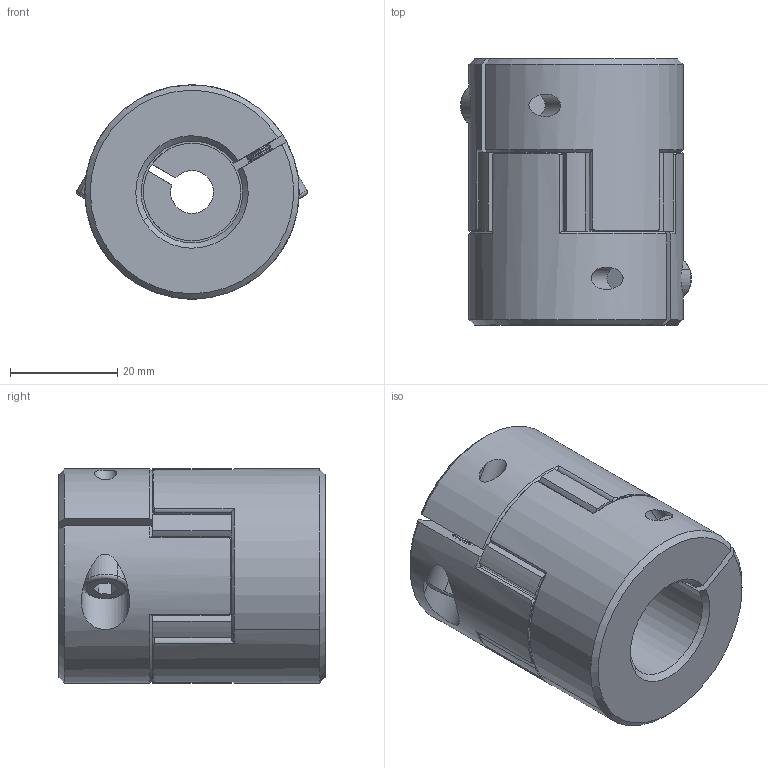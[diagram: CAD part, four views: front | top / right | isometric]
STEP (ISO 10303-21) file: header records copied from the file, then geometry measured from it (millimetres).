
FILE_DESCRIPTION (( 'STEP AP203' ), '1' );
FILE_NAME ('LF-B-D40L50-8-19.STEP', '2021-10-27T05:47:58', ( '' ), ( '' ), 'SwSTEP 2.0', 'SolidWorks 2018', '' );
FILE_SCHEMA (( 'CONFIG_CONTROL_DESIGN' ));
Length unit declared in the file: millimetre
Products named in the file (1): LF-B-D40L50-8-19
Bounding box: 43.11 x 49.7 x 40 mm (x, y, z)
Volume: 51079 mm3; surface area: 14608.9 mm2
Topology: 1 solids, 7 shells, 470 faces, 1113 edges, 660 vertices
Faces by surface type: cone 170, cylinder 169, plane 127, torus 4
Entity records: 13932 total; most frequent: CARTESIAN_POINT 2888, DIRECTION 2501, ORIENTED_EDGE 2218, EDGE_CURVE 1109, AXIS2_PLACEMENT_3D 1037, VERTEX_POINT 660, CIRCLE 566, EDGE_LOOP 487
